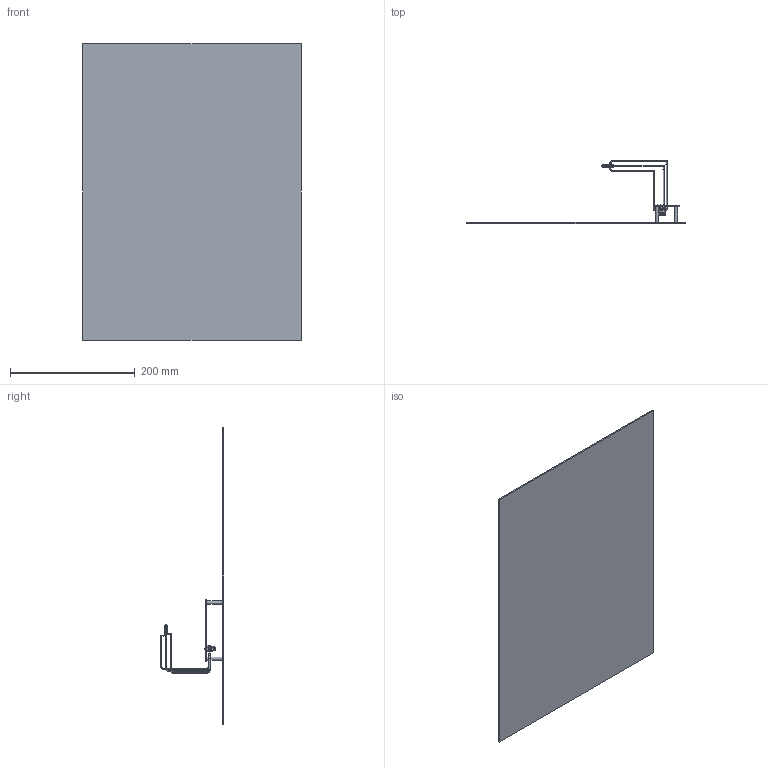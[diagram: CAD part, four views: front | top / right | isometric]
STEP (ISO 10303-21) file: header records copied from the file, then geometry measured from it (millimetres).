
FILE_DESCRIPTION(('Open CASCADE Model'),'2;1');
FILE_NAME('Open CASCADE Shape Model','2026-10-07T05:14:42',('Author'),( 'Open CASCADE'),'Open CASCADE STEP processor 7.7','Open CASCADE 7.7' ,'Unknown');
FILE_SCHEMA(('AUTOMOTIVE_DESIGN { 1 0 10303 214 1 1 1 1 }'));
Length unit declared in the file: millimetre
Products named in the file (22): M11_E37_TAILS_R01_WITH_CARRIER_R03_HOLD; CARRIER_R03_NATIVE_SUBSTRATE; CARRIER_R03_NATIVE_SUBSTRATE_part; J5_R03_FACTORY_REGISTERED; J5_R03_FACTORY_REGISTERED_part; H1_POST_BUDGET; H1_POST_BUDGET_part; H2_POST_BUDGET; H2_POST_BUDGET_part; H3_POST_BUDGET; H3_POST_BUDGET_part; H4_POST_BUDGET; H4_POST_BUDGET_part; M11_PLATE_CONTEXT; M11_PLATE_CONTEXT_part; E37_M11_WHITE_CORE_BUDGET; E37_M11_WHITE_CORE_BUDGET_part; E37_M11_BROWN_CORE_BUDGET; E37_M11_BROWN_CORE_BUDGET_part; E37_M11_GREEN_CORE_BUDGET; E37_M11_GREEN_CORE_BUDGET_part
Assembly tree (21 placements, depth 4):
  M11_E37_TAILS_R01_WITH_CARRIER_R03_HOLD
    M11_E37_TAILS_R01_WITH_CARRIER_R03_HOLD
      CARRIER_R03_NATIVE_SUBSTRATE
        CARRIER_R03_NATIVE_SUBSTRATE_part
      J5_R03_FACTORY_REGISTERED
        J5_R03_FACTORY_REGISTERED_part
      H1_POST_BUDGET
        H1_POST_BUDGET_part
      H2_POST_BUDGET
        H2_POST_BUDGET_part
      H3_POST_BUDGET
        H3_POST_BUDGET_part
      H4_POST_BUDGET
        H4_POST_BUDGET_part
      M11_PLATE_CONTEXT
        M11_PLATE_CONTEXT_part
      E37_M11_WHITE_CORE_BUDGET
        E37_M11_WHITE_CORE_BUDGET_part
      E37_M11_BROWN_CORE_BUDGET
        E37_M11_BROWN_CORE_BUDGET_part
      E37_M11_GREEN_CORE_BUDGET
        E37_M11_GREEN_CORE_BUDGET_part
Bounding box: 350 x 101.5 x 475 mm (x, y, z)
Volume: 342831.6 mm3; surface area: 354140.1 mm2
Topology: 19 solids, 19 shells, 910 faces, 2431 edges, 1589 vertices
Faces by surface type: plane 673, cylinder 195, torus 24, bspline 18
Full cylindrical faces by diameter (mm): 1 x16, 1.04 x44, 1.1 x2, 1.3 x3, 1.6 x4, 2 x18, 3.2 x8, 5.5 x4
Entity records: 63037 total; most frequent: CARTESIAN_POINT 13523, DIRECTION 9125, LINE 6219, VECTOR 6219, ORIENTED_EDGE 4862, PCURVE 4862, DEFINITIONAL_REPRESENTATION 4862, EDGE_CURVE 2431
